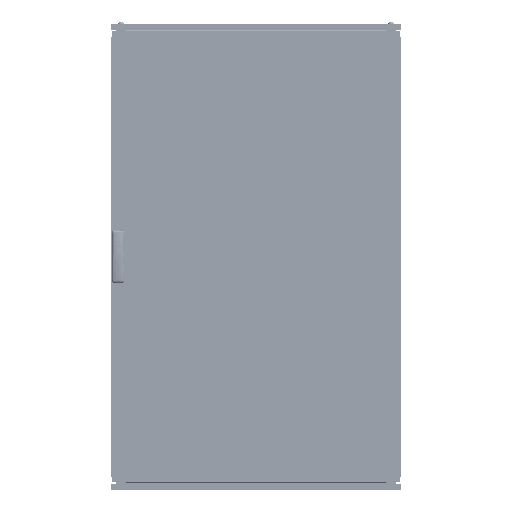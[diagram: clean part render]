
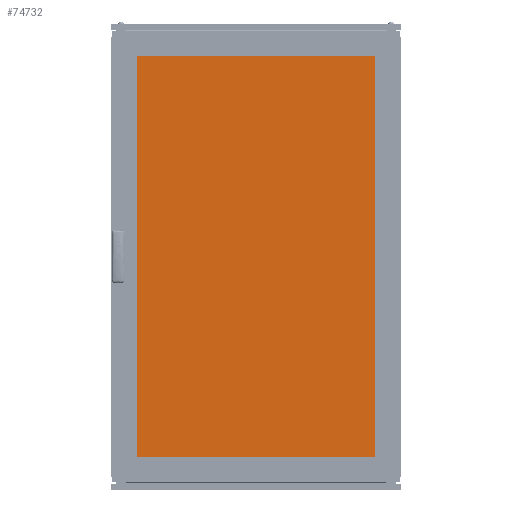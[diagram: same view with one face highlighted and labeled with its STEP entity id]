
A CAD part, top view. The second image highlights one B-rep face of the part: STEP entity #74732.
In plain terms, the highlighted planar face has unit normal (0, 0, 1).
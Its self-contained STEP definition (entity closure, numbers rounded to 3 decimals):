
#2069 = CARTESIAN_POINT ( 'NONE',  ( -430., -710., 5. ) ) ;
#12791 = AXIS2_PLACEMENT_3D ( 'NONE', #81950, #65036, #97783 ) ;
#16469 = DIRECTION ( 'NONE',  ( -1., 0., 0. ) ) ;
#18988 = LINE ( 'NONE', #2069, #172414 ) ;
#36197 = DIRECTION ( 'NONE',  ( 0., 1., 0. ) ) ;
#44593 = CARTESIAN_POINT ( 'NONE',  ( 430., 710., 5. ) ) ;
#65036 = DIRECTION ( 'NONE',  ( 0., 0., -1. ) ) ;
#67243 = CARTESIAN_POINT ( 'NONE',  ( -430., 710., 5. ) ) ;
#74732 = ADVANCED_FACE ( 'NONE', ( #185777 ), #183560, .F. ) ;
#81950 = CARTESIAN_POINT ( 'NONE',  ( 0., 0., 5. ) ) ;
#85174 = VERTEX_POINT ( 'NONE', #44593 ) ;
#97154 = VECTOR ( 'NONE', #36197, 1000. ) ;
#97783 = DIRECTION ( 'NONE',  ( -1., 0., 0. ) ) ;
#99874 = VERTEX_POINT ( 'NONE', #177265 ) ;
#106677 = VECTOR ( 'NONE', #16469, 1000. ) ;
#107943 = ORIENTED_EDGE ( 'NONE', *, *, #209944, .T. ) ;
#119823 = ORIENTED_EDGE ( 'NONE', *, *, #156001, .T. ) ;
#120267 = LINE ( 'NONE', #67243, #106677 ) ;
#123063 = LINE ( 'NONE', #190814, #97154 ) ;
#130266 = CARTESIAN_POINT ( 'NONE',  ( -430., -710., 5. ) ) ;
#131337 = EDGE_CURVE ( 'NONE', #85174, #163977, #120267, .T. ) ;
#142937 = EDGE_CURVE ( 'NONE', #163977, #99874, #196901, .T. ) ;
#143509 = ORIENTED_EDGE ( 'NONE', *, *, #131337, .T. ) ;
#144985 = DIRECTION ( 'NONE',  ( 0., -1., 0. ) ) ;
#154964 = CARTESIAN_POINT ( 'NONE',  ( 430., -710., 5. ) ) ;
#156001 = EDGE_CURVE ( 'NONE', #99874, #177582, #18988, .T. ) ;
#163977 = VERTEX_POINT ( 'NONE', #221841 ) ;
#166506 = ORIENTED_EDGE ( 'NONE', *, *, #142937, .T. ) ;
#172414 = VECTOR ( 'NONE', #208563, 1000. ) ;
#177265 = CARTESIAN_POINT ( 'NONE',  ( -430., -710., 5. ) ) ;
#177582 = VERTEX_POINT ( 'NONE', #154964 ) ;
#183560 = PLANE ( 'NONE',  #12791 ) ;
#185777 = FACE_OUTER_BOUND ( 'NONE', #217094, .T. ) ;
#190814 = CARTESIAN_POINT ( 'NONE',  ( 430., -710., 5. ) ) ;
#196901 = LINE ( 'NONE', #130266, #197364 ) ;
#197364 = VECTOR ( 'NONE', #144985, 1000. ) ;
#208563 = DIRECTION ( 'NONE',  ( 1., 0., 0. ) ) ;
#209944 = EDGE_CURVE ( 'NONE', #177582, #85174, #123063, .T. ) ;
#217094 = EDGE_LOOP ( 'NONE', ( #107943, #143509, #166506, #119823 ) ) ;
#221841 = CARTESIAN_POINT ( 'NONE',  ( -430., 710., 5. ) ) ;
